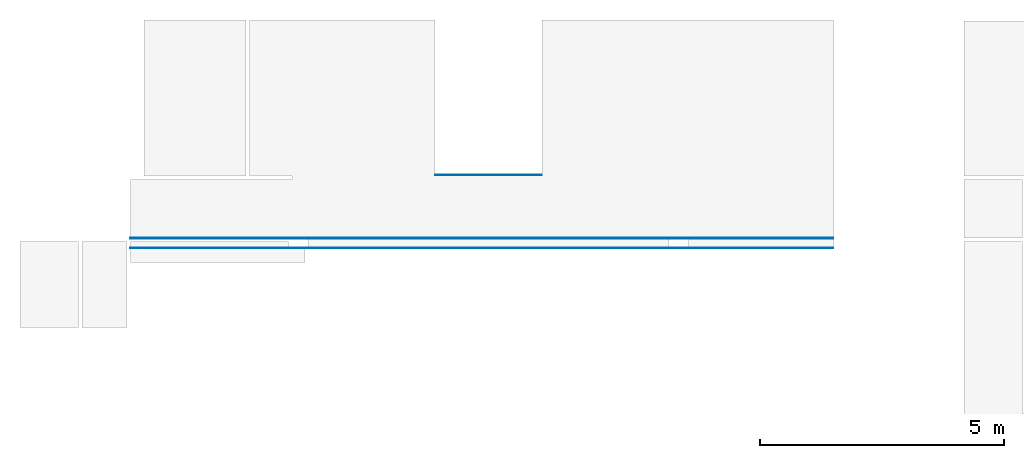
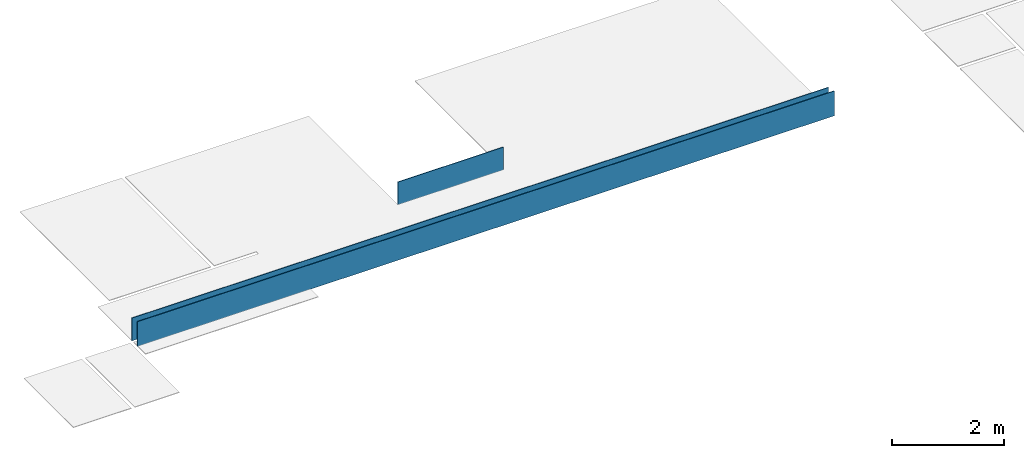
# One storey, part 1 of 2: 3 walls.
"""IFC2X3 building model written with IfcOpenShell, lengths in metres."""

from ifc_helpers import new_model, entity, si_unit, converted_unit, derived_unit, direction, frame, frame_2d, origin, place, context, subcontext, project, spatial, rectangle, extrude, material, layer, layer_set, layer_usage, type_object, element, save


model = new_model("IFC2X3")

# Units and contexts
model_context = context("Model", 3, precision=1e-05, world=origin(), true_north=direction((6.12303176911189e-17, 1.0)))
body_context = subcontext(model_context, "Body", "Model", "MODEL_VIEW")
ifc_project = project(units=[si_unit("LENGTHUNIT", "METRE"), si_unit("AREAUNIT", "SQUARE_METRE"), si_unit("VOLUMEUNIT", "CUBIC_METRE"), converted_unit("PLANEANGLEUNIT", "DEGREE", entity("IfcRatioMeasure", 0.0174532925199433), si_unit("PLANEANGLEUNIT", "RADIAN"), dimensions=[0, 0, 0, 0, 0, 0, 0]), si_unit("MASSUNIT", "GRAM", prefix="KILO"), derived_unit("MASSDENSITYUNIT", [(si_unit("MASSUNIT", "GRAM", prefix="KILO"), 1), (si_unit("LENGTHUNIT", "METRE"), -3)]), si_unit("TIMEUNIT", "SECOND"), si_unit("FREQUENCYUNIT", "HERTZ"), si_unit("THERMODYNAMICTEMPERATUREUNIT", "DEGREE_CELSIUS"), derived_unit("THERMALTRANSMITTANCEUNIT", [(si_unit("MASSUNIT", "GRAM", prefix="KILO"), 1), (si_unit("THERMODYNAMICTEMPERATUREUNIT", "KELVIN"), -1), (si_unit("TIMEUNIT", "SECOND"), -3)]), derived_unit("VOLUMETRICFLOWRATEUNIT", [(si_unit("LENGTHUNIT", "METRE"), 3), (si_unit("TIMEUNIT", "SECOND"), -1)]), si_unit("ELECTRICCURRENTUNIT", "AMPERE"), si_unit("ELECTRICVOLTAGEUNIT", "VOLT"), si_unit("POWERUNIT", "WATT"), si_unit("FORCEUNIT", "NEWTON", prefix="KILO"), si_unit("ILLUMINANCEUNIT", "LUX"), si_unit("LUMINOUSFLUXUNIT", "LUMEN"), si_unit("LUMINOUSINTENSITYUNIT", "CANDELA"), derived_unit("USERDEFINED", [(si_unit("MASSUNIT", "GRAM", prefix="KILO"), -1), (si_unit("LENGTHUNIT", "METRE"), -2), (si_unit("TIMEUNIT", "SECOND"), 3), (si_unit("LUMINOUSFLUXUNIT", "LUMEN"), 1)]), derived_unit("LINEARVELOCITYUNIT", [(si_unit("LENGTHUNIT", "METRE"), 1), (si_unit("TIMEUNIT", "SECOND"), -1)]), si_unit("PRESSUREUNIT", "PASCAL"), derived_unit("USERDEFINED", [(si_unit("LENGTHUNIT", "METRE"), -2), (si_unit("MASSUNIT", "GRAM", prefix="KILO"), 1), (si_unit("TIMEUNIT", "SECOND"), -2)])], contexts=[model_context])

# Site, building, storey
site_placement = place(None, origin())
site = spatial("IfcSite", under=ifc_project, at=site_placement, Name="Surface", CompositionType="ELEMENT")
building_placement = place(site_placement, origin())
building = spatial("IfcBuilding", under=site, at=building_placement, CompositionType="ELEMENT")
storey_placement = place(building_placement, frame((0.0, 0.0, 2.5)))
storey = spatial("IfcBuildingStorey", under=building, at=storey_placement, Name="RDC Faux Plafond", CompositionType="ELEMENT", Elevation=2.5)

# Walls
ifc_material = material(Name="Plâtre")
ifc_layer = layer(ifc_material, 0.013)
ifc_layer_set = layer_set([ifc_layer], Name="Mur de base:BA 13")
ifc_layer_usage_1 = layer_usage(ifc_layer_set, "AXIS2", "NEGATIVE", 0.0065)
wall_type = type_object("IfcWallType", Name="Mur de base:BA 13", PredefinedType="STANDARD", material=ifc_layer_set)
wall_1_placement = place(storey_placement, frame((-4.9474888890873, 3.07051067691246, 0.0)))
element("IfcWallStandardCase", 1, at=wall_1_placement, inside=storey, type_object=wall_type, material=ifc_layer_usage_1, Name="Mur de base:BA 13", ObjectType="Mur de base:BA 13", context=body_context, shape_type="SweptSolid", body=[
    extrude(rectangle(XDim=14.415, YDim=0.0130000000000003, at=frame_2d((7.2075, -9.93129189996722e-17), x_axis=(-1.0, 0.0))), origin(), (0.0, 0.0, 1.0), 0.499999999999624),
])
ifc_layer_usage_2 = layer_usage(ifc_layer_set, "AXIS2", "NEGATIVE", 0.0065)
wall_2_placement = place(storey_placement, frame((-4.9474888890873, 2.87051067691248, 0.0)))
element("IfcWallStandardCase", 2, at=wall_2_placement, inside=storey, type_object=wall_type, material=ifc_layer_usage_2, Name="Mur de base:BA 13", ObjectType="Mur de base:BA 13", context=body_context, shape_type="SweptSolid", body=[
    extrude(rectangle(XDim=14.415, YDim=0.0129999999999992, at=frame_2d((7.2075, 3.09214459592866e-16), x_axis=(-1.0, 0.0))), origin(), (0.0, 0.0, 1.0), 0.541338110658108),
])
ifc_layer_usage_3 = layer_usage(ifc_layer_set, "AXIS2", "NEGATIVE", 0.0065)
wall_3_placement = place(storey_placement, frame((3.48812034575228, 4.36818714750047, 0.0), z_axis=(0.0, 0.0, 1.0), x_axis=(-1.0, 0.0, 0.0)))
element("IfcWallStandardCase", 3, at=wall_3_placement, inside=storey, type_object=wall_type, material=ifc_layer_usage_3, Name="Mur de base:BA 13", ObjectType="Mur de base:BA 13", context=body_context, shape_type="SweptSolid", body=[
    extrude(rectangle(XDim=2.18, YDim=0.0130000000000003, at=frame_2d((1.09, -1.51788304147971e-17), x_axis=(-1.0, 0.0))), origin(), (0.0, 0.0, 1.0), 0.5),
])

save(model, "model.ifc")
